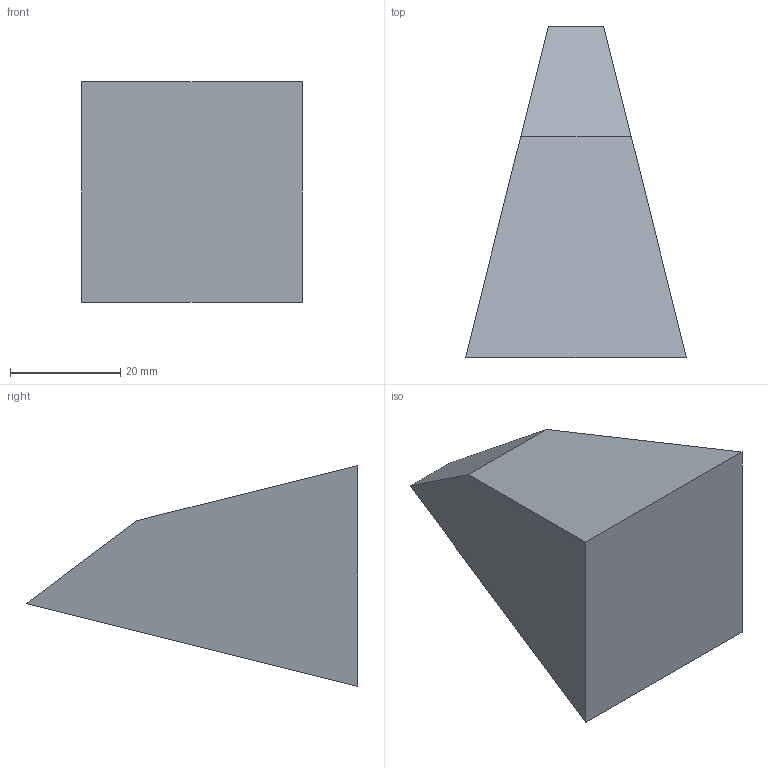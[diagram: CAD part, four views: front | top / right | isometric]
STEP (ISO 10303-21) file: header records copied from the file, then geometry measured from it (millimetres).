
FILE_DESCRIPTION(/* description */ ('','CAx-IF Rec.Pracs.---Representation and Presentation of Product Manufacturing Information (PMI)---4.0---2014-10-13'),/* implementation_level */ '2;1');
FILE_NAME(/* name */ '3.stp',/* time_stamp */ '2026-06-27T16:23:56+01:00',/* author */ ('hunte'),/* organization */ (''),/* preprocessor_version */ 'ST-DEVELOPER v20',/* originating_system */ 'Autodesk Inventor 2024',/* authorisation */ '');
FILE_SCHEMA (('AP242_MANAGED_MODEL_BASED_3D_ENGINEERING_MIM_LF { 1 0 10303 442 1 1 4 }'));
Length unit declared in the file: millimetre
Products named in the file (1): 3
Bounding box: 40 x 60 x 40 mm (x, y, z)
Volume: 40666.7 mm3; surface area: 7644.3 mm2
Topology: 1 solids, 1 shells, 6 faces, 12 edges, 8 vertices
Faces by surface type: plane 6
Entity records: 287 total; most frequent: DIRECTION 52, CARTESIAN_POINT 44, ORIENTED_EDGE 24, AXIS2_PLACEMENT_3D 20, LINE 12, VECTOR 12, EDGE_CURVE 12, VERTEX_POINT 8
